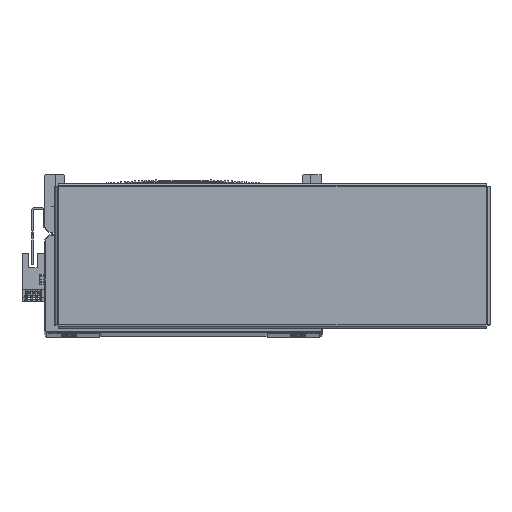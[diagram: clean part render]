
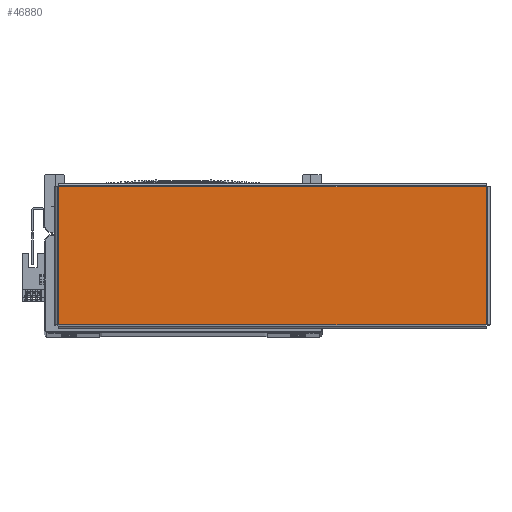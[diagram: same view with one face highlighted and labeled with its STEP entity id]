
A CAD part, top view. The second image highlights one B-rep face of the part: STEP entity #46880.
In plain terms, the highlighted planar face has unit normal (0, 0, 1) as drawn and (0, -1, 0) by its records, which use the part's own axes.
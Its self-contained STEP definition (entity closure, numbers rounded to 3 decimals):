
#2918 = EDGE_CURVE ( 'NONE', #26700, #26660, #8547, .T. ) ;
#2955 = EDGE_CURVE ( 'NONE', #26636, #26700, #8520, .T. ) ;
#2980 = EDGE_CURVE ( 'NONE', #26686, #26636, #8618, .T. ) ;
#3007 = EDGE_CURVE ( 'NONE', #26660, #26686, #8610, .T. ) ;
#5775 = EDGE_LOOP ( 'NONE', ( #50202, #50358, #50383, #50408 ) ) ;
#8520 = LINE ( 'NONE', #35253, #8526 ) ;
#8526 = VECTOR ( 'NONE', #35242, 1000. ) ;
#8547 = LINE ( 'NONE', #35129, #8553 ) ;
#8553 = VECTOR ( 'NONE', #35107, 1000. ) ;
#8610 = LINE ( 'NONE', #35360, #8614 ) ;
#8614 = VECTOR ( 'NONE', #35290, 1000. ) ;
#8618 = LINE ( 'NONE', #35207, #8627 ) ;
#8627 = VECTOR ( 'NONE', #35216, 1000. ) ;
#12702 = AXIS2_PLACEMENT_3D ( 'NONE', #49601, #49606, #49617 ) ;
#26636 = VERTEX_POINT ( 'NONE', #60945 ) ;
#26660 = VERTEX_POINT ( 'NONE', #60919 ) ;
#26686 = VERTEX_POINT ( 'NONE', #60914 ) ;
#26700 = VERTEX_POINT ( 'NONE', #61098 ) ;
#35107 = DIRECTION ( 'NONE',  ( 0., 0., -1. ) ) ;
#35129 = CARTESIAN_POINT ( 'NONE',  ( -130.863, -1.5, 42.293 ) ) ;
#35207 = CARTESIAN_POINT ( 'NONE',  ( 130.863, -1.5, -42.293 ) ) ;
#35216 = DIRECTION ( 'NONE',  ( 0., 0., 1. ) ) ;
#35242 = DIRECTION ( 'NONE',  ( -1., 0., 0. ) ) ;
#35253 = CARTESIAN_POINT ( 'NONE',  ( 130.893, -1.5, 42.263 ) ) ;
#35290 = DIRECTION ( 'NONE',  ( 1., 0., 0. ) ) ;
#35360 = CARTESIAN_POINT ( 'NONE',  ( -130.893, -1.5, -42.263 ) ) ;
#38324 = FACE_OUTER_BOUND ( 'NONE', #5775, .T. ) ;
#46880 = ADVANCED_FACE ( 'NONE', ( #38324 ), #49621, .F. ) ;
#49601 = CARTESIAN_POINT ( 'NONE',  ( 0., -1.5, 0. ) ) ;
#49606 = DIRECTION ( 'NONE',  ( 0., 1., 0. ) ) ;
#49617 = DIRECTION ( 'NONE',  ( 0., 0., 1. ) ) ;
#49621 = PLANE ( 'NONE',  #12702 ) ;
#50202 = ORIENTED_EDGE ( 'NONE', *, *, #2980, .T. ) ;
#50358 = ORIENTED_EDGE ( 'NONE', *, *, #2955, .T. ) ;
#50383 = ORIENTED_EDGE ( 'NONE', *, *, #2918, .T. ) ;
#50408 = ORIENTED_EDGE ( 'NONE', *, *, #3007, .T. ) ;
#60914 = CARTESIAN_POINT ( 'NONE',  ( 130.863, -1.5, -42.263 ) ) ;
#60919 = CARTESIAN_POINT ( 'NONE',  ( -130.863, -1.5, -42.263 ) ) ;
#60945 = CARTESIAN_POINT ( 'NONE',  ( 130.863, -1.5, 42.263 ) ) ;
#61098 = CARTESIAN_POINT ( 'NONE',  ( -130.863, -1.5, 42.263 ) ) ;
